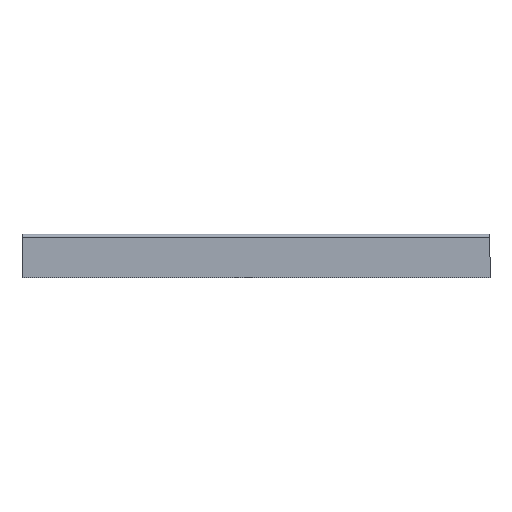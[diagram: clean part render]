
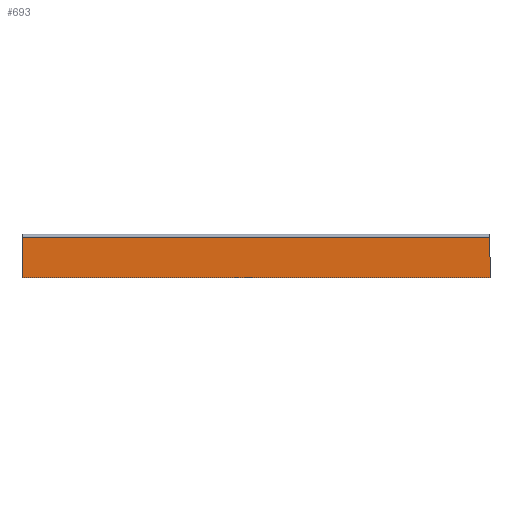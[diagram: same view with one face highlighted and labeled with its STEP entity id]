
A CAD part, left-side view. The second image highlights one B-rep face of the part: STEP entity #693.
In plain terms, the highlighted planar face has unit normal (-1, 0, 0).
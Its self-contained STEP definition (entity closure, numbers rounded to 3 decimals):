
#47 = ORIENTED_EDGE ( 'NONE', *, *, #852, .T. ) ;
#80 = ORIENTED_EDGE ( 'NONE', *, *, #873, .F. ) ;
#126 = EDGE_LOOP ( 'NONE', ( #139, #154, #47, #80 ) ) ;
#139 = ORIENTED_EDGE ( 'NONE', *, *, #891, .F. ) ;
#154 = ORIENTED_EDGE ( 'NONE', *, *, #885, .T. ) ;
#209 = VERTEX_POINT ( 'NONE', #663 ) ;
#214 = PLANE ( 'NONE',  #905 ) ;
#308 = DIRECTION ( 'NONE',  ( 0., 0., 1. ) ) ;
#434 = CARTESIAN_POINT ( 'NONE',  ( -100., 479., 37. ) ) ;
#471 = CARTESIAN_POINT ( 'NONE',  ( -100., 479., 0. ) ) ;
#487 = DIRECTION ( 'NONE',  ( 0., 0., 1. ) ) ;
#502 = DIRECTION ( 'NONE',  ( -1., 0., 0. ) ) ;
#512 = CARTESIAN_POINT ( 'NONE',  ( -100., 0., 0. ) ) ;
#521 = VERTEX_POINT ( 'NONE', #531 ) ;
#523 = CARTESIAN_POINT ( 'NONE',  ( -100., 429., 0. ) ) ;
#531 = CARTESIAN_POINT ( 'NONE',  ( -100., 0., 0. ) ) ;
#636 = VERTEX_POINT ( 'NONE', #523 ) ;
#646 = VERTEX_POINT ( 'NONE', #653 ) ;
#653 = CARTESIAN_POINT ( 'NONE',  ( -100., 0., 37. ) ) ;
#663 = CARTESIAN_POINT ( 'NONE',  ( -100., 429., 37. ) ) ;
#693 = ADVANCED_FACE ( 'NONE', ( #1108 ), #214, .T. ) ;
#726 = LINE ( 'NONE', #1047, #730 ) ;
#730 = VECTOR ( 'NONE', #1057, 1000. ) ;
#741 = LINE ( 'NONE', #1035, #742 ) ;
#742 = VECTOR ( 'NONE', #1020, 1000. ) ;
#852 = EDGE_CURVE ( 'NONE', #521, #646, #1394, .T. ) ;
#873 = EDGE_CURVE ( 'NONE', #209, #646, #1356, .T. ) ;
#885 = EDGE_CURVE ( 'NONE', #636, #521, #726, .T. ) ;
#891 = EDGE_CURVE ( 'NONE', #636, #209, #741, .T. ) ;
#905 = AXIS2_PLACEMENT_3D ( 'NONE', #471, #502, #487 ) ;
#1005 = DIRECTION ( 'NONE',  ( 0., -1., 0. ) ) ;
#1020 = DIRECTION ( 'NONE',  ( 0., 0., 1. ) ) ;
#1035 = CARTESIAN_POINT ( 'NONE',  ( -100., 429., 10. ) ) ;
#1047 = CARTESIAN_POINT ( 'NONE',  ( -100., 479., 0. ) ) ;
#1057 = DIRECTION ( 'NONE',  ( 0., -1., 0. ) ) ;
#1108 = FACE_OUTER_BOUND ( 'NONE', #126, .T. ) ;
#1149 = VECTOR ( 'NONE', #1005, 1000. ) ;
#1356 = LINE ( 'NONE', #434, #1149 ) ;
#1386 = VECTOR ( 'NONE', #308, 1000. ) ;
#1394 = LINE ( 'NONE', #512, #1386 ) ;
